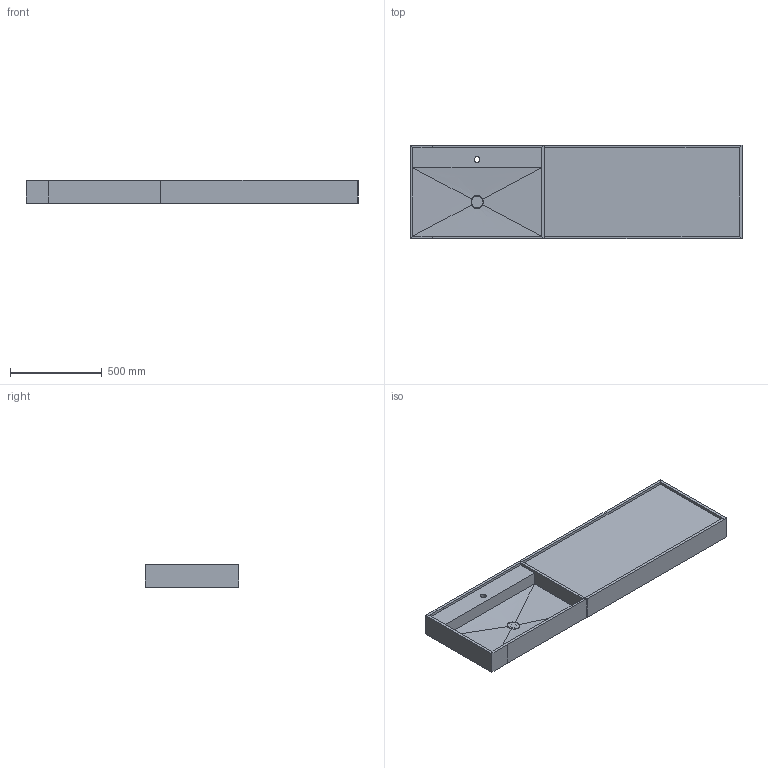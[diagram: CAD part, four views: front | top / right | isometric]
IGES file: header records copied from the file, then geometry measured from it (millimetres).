
Start section: Data from Parasolid IGES Translator 22.0.50, Copyright(c) 2006 Siemens P LM Software. All Rights Reserved.
Global section: file name: noorth-top-H 12,5 D 51,2 W 73,2_5359.igs; native system: By Siemens PLM Incorporated; preprocessor: XPlus GENERIC/IGES 22.0.50; author: Noname; organization: Noname; date: 20251109.152158; units: metre
Bounding box: 1814 x 513 x 127 mm (x, y, z)
Volume: 39031039.5 mm3; surface area: 5003144 mm2
Topology: 22 solids, 22 shells, 219 faces, 500 edges, 339 vertices
Faces by surface type: bspline 153, plane 56, cylinder 10
